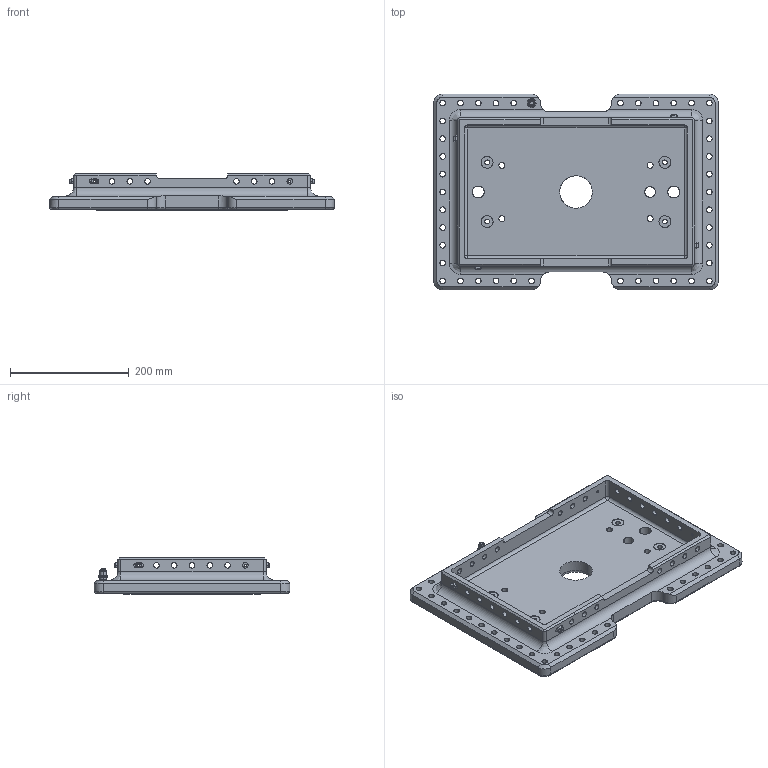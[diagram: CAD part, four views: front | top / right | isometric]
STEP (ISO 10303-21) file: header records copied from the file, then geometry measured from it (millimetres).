
FILE_DESCRIPTION(('STEP AP214'),'1');
FILE_NAME('EGT015_1705072_H_RAHMEN_300X450_SW50.CATPart.stp','2015-09-14T13:04:25',('3D-Tool'),(' '),'Spatial InterOp 3D',' ',' ');
FILE_SCHEMA(('automotive_design'));
Length unit declared in the file: millimetre
Products named in the file (8): EGT015_1705072_H_RAHMEN_300X450_SW50|Hauptkörper ( _SOL218471 - wsp _MASTER -  )|Hauptkörper ( _SOL218471 - wsp _MASTER -  ); EGT015_1705072_H_RAHMEN_300X450_SW50|_DITTO _DIT50046 - wsp _MASTER -_|_DITTO _DIT50046 - wsp _MASTER -_; EGT015_1705072_H_RAHMEN_300X450_SW50|_DITTO _DIT50047 - wsp _MASTER -_|_DITTO _DIT50047 - wsp _MASTER -_; EGT015_1705072_H_RAHMEN_300X450_SW50|_DITTO _DIT50048 - wsp _MASTER -_|_DITTO _DIT50048 - wsp _MASTER -_; EGT015_1705072_H_RAHMEN_300X450_SW50|_DITTO _DIT50049 - wsp _MASTER -_|_DITTO _DIT50049 - wsp _MASTER -_; EGT015_1705072_H_RAHMEN_300X450_SW50|_DITTO _DIT50050 - wsp _MASTER -_|_DITTO _DIT50050 - wsp _MASTER -_; EGT015_1705072_H_RAHMEN_300X450_SW50|Ergebnis von  DITTO _DIT49958 - wsp M8X30 DIN912 -_|Ergebnis von  DITTO _DIT49958 - wsp M8X30 DIN912 -_; EGT015_1705072_H_RAHMEN_300X450_SW50|Ergebnis von Körper.11 ( _SOL67 - wsp M8X30 DIN912 -  )|Ergebnis von Körper.11 ( _SOL67 - wsp M8X30 DIN912 -  )
Bounding box: 480 x 330 x 62 mm (x, y, z)
Volume: 3771401.7 mm3; surface area: 467847.4 mm2
Topology: 8 solids, 8 shells, 567 faces, 1482 edges, 981 vertices
Faces by surface type: cylinder 358, plane 132, bspline 48, cone 25, torus 4
Entity records: 25387 total; most frequent: CARTESIAN_POINT 10058, ORIENTED_EDGE 2956, EDGE_CURVE 1478, DIRECTION 1063, VERTEX_POINT 981, B_SPLINE_CURVE_WITH_KNOTS 848, EDGE_LOOP 801, STYLED_ITEM 575
